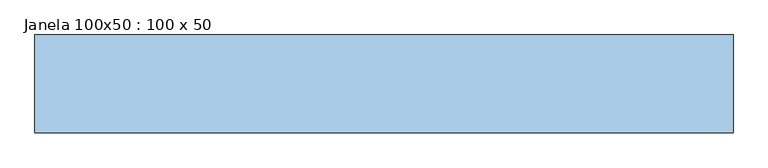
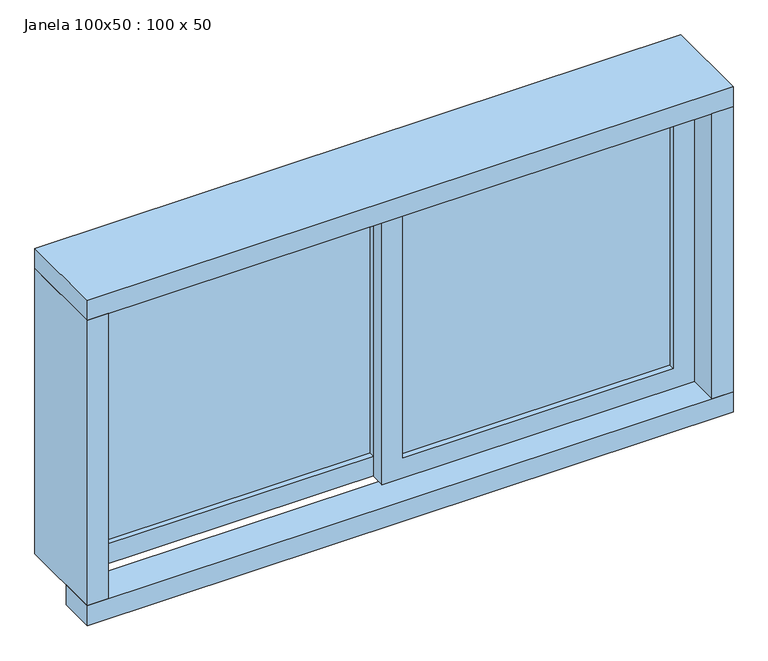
"""IFC4 building model written with IfcOpenShell, lengths in millimetres: window geometry, Janela 100x50 : 100 x 50."""

from ifc_helpers import new_model, si_unit, frame, origin, place, context, project, spatial, polyline, outline, extrude, source, transform, mapped, element, save


def janela_100x50_100_x_50_44f83ede(model_context):
    return source(origin(), model_context, "Body", "SweptSolid", [
        extrude(outline(polyline([(-335.5964491, 15.5), (111.9035509, 15.5), (111.9035509, 9.5), (-335.5964491, 9.5), (-335.5964491, 15.5)])), frame((0.0, 0.0, 1635.0), z_axis=(0.0, 0.0, 1.0), x_axis=(1.0, 0.0, 0.0)), (0.0, 0.0, 1.0), 430.0),
        extrude(outline(polyline([(2100.0, -370.5964491), (1600.0, -370.5964491), (1600.0, 146.9035509), (2100.0, 146.9035509), (2100.0, -370.5964491)]), holes=[polyline([(2065.0, -335.5964491), (2065.0, 111.9035509), (1635.0, 111.9035509), (1635.0, -335.5964491), (2065.0, -335.5964491)])]), frame((0.0, 0.0, 0.0), z_axis=(0.0, 1.0, 0.0), x_axis=(0.0, 0.0, 1.0)), (0.0, 0.0, 1.0), 25.0),
        extrude(outline(polyline([(594.4035509, -9.5), (594.4035509, -15.5), (146.9035509, -15.5), (146.9035509, -9.5), (594.4035509, -9.5)])), frame((0.0, 0.0, 1635.0), z_axis=(0.0, 0.0, 1.0), x_axis=(1.0, 0.0, 0.0)), (0.0, 0.0, 1.0), 430.0),
        extrude(outline(polyline([(2100.0, 629.4035509), (2100.0, 111.9035509), (1600.0, 111.9035509), (1600.0, 629.4035509), (2100.0, 629.4035509)]), holes=[polyline([(2065.0, 594.4035509), (1635.0, 594.4035509), (1635.0, 146.9035509), (2065.0, 146.9035509), (2065.0, 594.4035509)])]), frame((0.0, -25.0, 0.0), z_axis=(0.0, 1.0, 0.0), x_axis=(0.0, 0.0, 1.0)), (0.0, 0.0, 1.0), 25.0),
        extrude(outline(polyline([(-405.5964491, -15.8758395), (664.4035509, -15.8758395), (664.4035509, -75.8758395), (-405.5964491, -75.8758395), (-405.5964491, -15.8758395)])), frame((0.0, 0.0, 1565.0), z_axis=(0.0, 0.0, 1.0), x_axis=(1.0, 0.0, 0.0)), (0.0, 0.0, 1.0), 35.0),
        extrude(outline(polyline([(-405.5964491, 74.1241605), (-370.5964491, 74.1241605), (-370.5964491, -75.8758395), (-405.5964491, -75.8758395), (-405.5964491, 74.1241605)])), frame((0.0, 0.0, 1600.0), z_axis=(0.0, 0.0, 1.0), x_axis=(1.0, 0.0, 0.0)), (0.0, 0.0, 1.0), 500.0),
        extrude(outline(polyline([(629.4035509, 74.1241605), (664.4035509, 74.1241605), (664.4035509, -75.8758395), (629.4035509, -75.8758395), (629.4035509, 74.1241605)])), frame((0.0, 0.0, 1600.0), z_axis=(0.0, 0.0, 1.0), x_axis=(1.0, 0.0, 0.0)), (0.0, 0.0, 1.0), 500.0),
        extrude(outline(polyline([(-405.5964491, 74.1241605), (664.4035509, 74.1241605), (664.4035509, -75.8758395), (-405.5964491, -75.8758395), (-405.5964491, 74.1241605)])), frame((0.0, 0.0, 2100.0), z_axis=(0.0, 0.0, 1.0), x_axis=(1.0, 0.0, 0.0)), (0.0, 0.0, 1.0), 35.0),
    ])


if __name__ == "__main__":
    model = new_model("IFC4")
    model_context = context("Model", 3, world=origin())
    ifc_project = project(units=[si_unit("LENGTHUNIT", "METRE", prefix="MILLI")], contexts=[model_context])
    site = spatial("IfcSite", under=ifc_project)
    building = spatial("IfcBuilding", under=site)
    placement = place(None, origin())
    janela_100x50_100_x_50_shape = janela_100x50_100_x_50_44f83ede(model_context)
    element("IfcWindow", 1, ObjectType="Janela 100x50 : 100 x 50", at=placement, inside=building, context=model_context, shape_type="MappedRepresentation", body=[
        mapped(janela_100x50_100_x_50_shape, transform((0.0, 0.0, 0.0), x_axis=(1.0, 0.0, 0.0), y_axis=(0.0, 1.0, 0.0), z_axis=(0.0, 0.0, 1.0))),
    ])
    save(model, "model.ifc")
